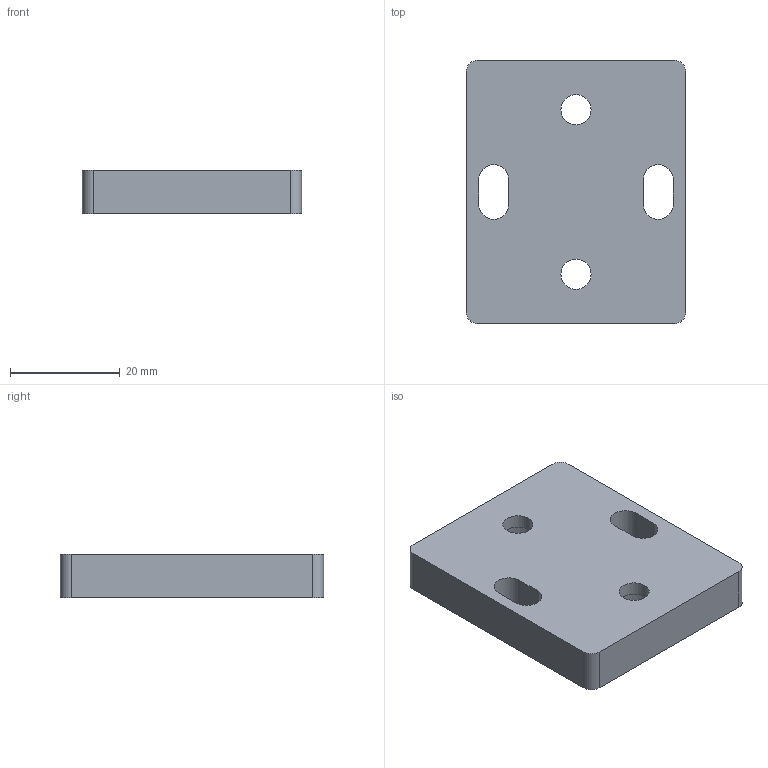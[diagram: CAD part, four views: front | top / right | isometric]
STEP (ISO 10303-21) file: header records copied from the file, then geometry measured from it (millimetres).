
FILE_DESCRIPTION(('STEP AP203'), '1');
FILE_NAME('ÒÏÏÔ1801.01.07.00.009 - Îïîðà ðåáðà', '', ('UNSPECIFIED'), ('UNSPECIFIED'), 'C3D Converter', 'C3D Toolkit', '');
FILE_SCHEMA(('CONFIG_CONTROL_DESIGN'));
Length unit declared in the file: millimetre
Products named in the file (1): ТППФ1801.01.07.00.009
Bounding box: 40 x 48 x 8 mm (x, y, z)
Volume: 13573.7 mm3; surface area: 5777 mm2
Topology: 1 solids, 1 shells, 24 faces, 60 edges, 40 vertices
Faces by surface type: cylinder 12, plane 12
Full cylindrical faces by diameter (mm): 5.5 x2, 10 x2
Entity records: 951 total; most frequent: DIRECTION 130, CARTESIAN_POINT 121, ORIENTED_EDGE 112, EDGE_CURVE 56, AXIS2_PLACEMENT_3D 49, VERTEX_POINT 40, EDGE_LOOP 38, LINE 32
